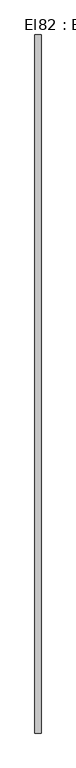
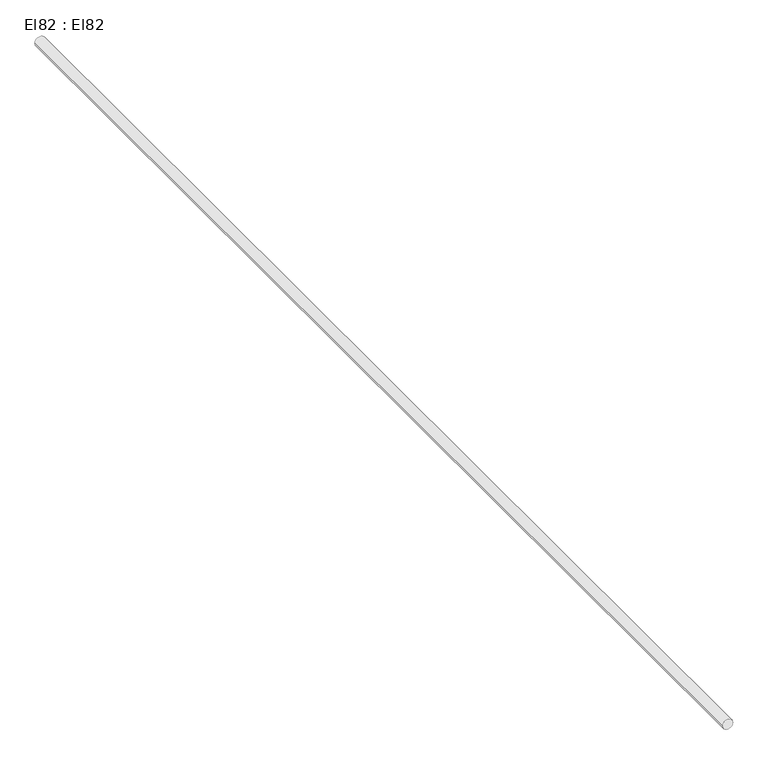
"""IFC4 building model written with IfcOpenShell, lengths in millimetres: cable carrier segment geometry, El82 : El82."""

from ifc_helpers import new_model, si_unit, point, frame, frame_2d, origin, place, context, project, spatial, circle_curve, trimmed, segment, composite_curve, outline, extrude, source, transform, mapped, element, save


def el82_el82_5403abd8(model_context):
    return source(origin(), model_context, "Body", "SweptSolid", [
        extrude(outline(composite_curve([segment(trimmed(circle_curve(frame_2d((2950.0, 24942.5)), 9.5), [point((2950.0, 24933.0))], [point((2950.0, 24952.0))], False, "CARTESIAN"), True, "CONTINUOUS"), segment(trimmed(circle_curve(frame_2d((2950.0, 24942.5)), 9.5), [point((2950.0, 24952.0))], [point((2950.0, 24933.0))], False, "CARTESIAN"), True, "CONTINUOUS")], self_intersect=False)), frame((0.0, 16538.8, 0.0), z_axis=(0.0, 1.0, 0.0), x_axis=(0.0, 0.0, 1.0)), (0.0, 0.0, 1.0), 2155.0),
    ])


if __name__ == "__main__":
    model = new_model("IFC4")
    model_context = context("Model", 3, world=origin())
    ifc_project = project(units=[si_unit("LENGTHUNIT", "METRE", prefix="MILLI")], contexts=[model_context])
    site = spatial("IfcSite", under=ifc_project)
    building = spatial("IfcBuilding", under=site)
    placement = place(None, origin())
    el82_el82_shape = el82_el82_5403abd8(model_context)
    element("IfcCableCarrierSegment", 1, ObjectType="El82 : El82", at=placement, inside=building, context=model_context, shape_type="MappedRepresentation", body=[
        mapped(el82_el82_shape, transform((0.0, 0.0, 0.0), x_axis=(1.0, 0.0, 0.0), y_axis=(0.0, 1.0, 0.0), z_axis=(0.0, 0.0, 1.0))),
    ])
    save(model, "model.ifc")
